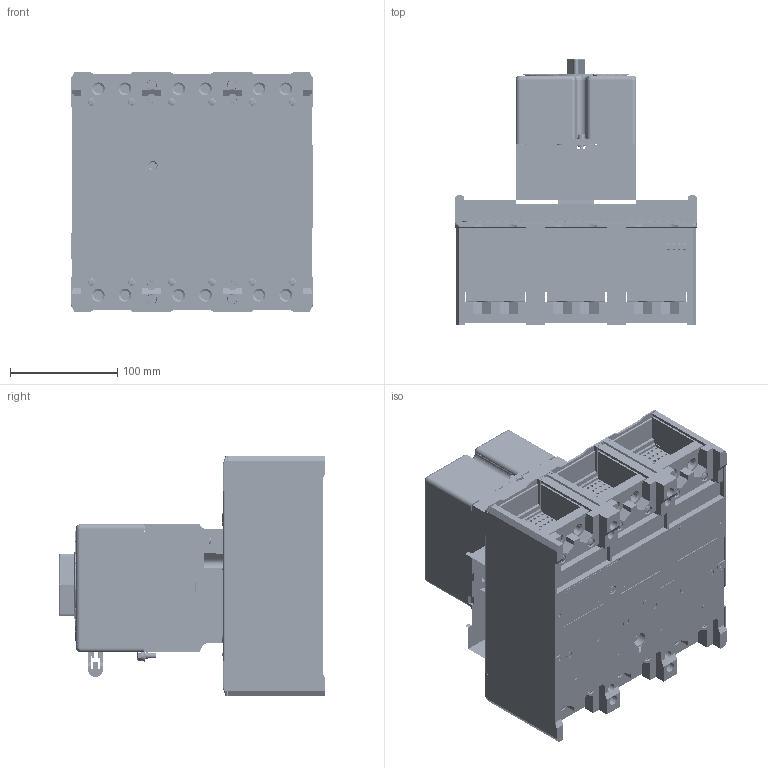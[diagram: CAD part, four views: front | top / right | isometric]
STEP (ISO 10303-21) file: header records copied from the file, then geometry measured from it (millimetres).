
FILE_DESCRIPTION (( 'STEP AP214' ), '1' );
FILE_NAME ('ÂÀ57-39 ñ ÝÌÏ.STEP', '2015-08-21T10:50:15', ( 'admin' ), ( '' ), 'SwSTEP 2.0', 'SolidWorks 2012', '' );
FILE_SCHEMA (( 'AUTOMOTIVE_DESIGN' ));
Length unit declared in the file: millimetre
Products named in the file (1): ÂÀ57-39 ñ ÝÌÏ
Bounding box: 225.3 x 248.35 x 223.77 mm (x, y, z)
Surface area: 510638.2 mm2 (no closed solid volume)
Topology: 0 solids, 1986 shells, 2133 faces, 12808 edges, 12603 vertices
Faces by surface type: plane 972, cylinder 752, bspline 307, cone 102
Entity records: 237317 total; most frequent: CARTESIAN_POINT 123514, DIRECTION 16063, ORIENTED_EDGE 12899, EDGE_CURVE 12750, VERTEX_POINT 12603, VECTOR 7811, LINE 7811, AXIS2_PLACEMENT_3D 4126
